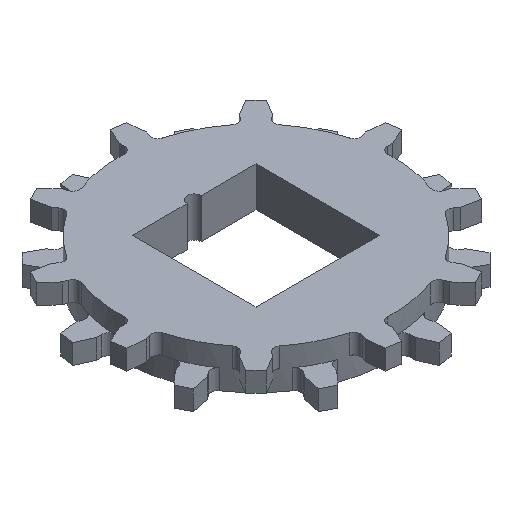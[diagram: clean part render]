
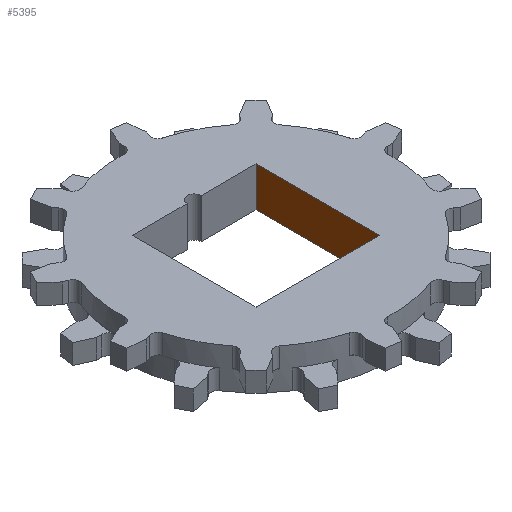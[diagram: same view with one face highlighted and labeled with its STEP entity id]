
A CAD part, isometric view. The second image highlights one B-rep face of the part: STEP entity #5395.
In plain terms, the highlighted planar face has unit normal (-1, 0, 0).
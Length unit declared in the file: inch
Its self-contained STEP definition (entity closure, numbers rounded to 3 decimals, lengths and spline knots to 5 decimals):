
#555=DIRECTION('',(0.,1.,0.));
#556=VECTOR('',#555,2.5);
#557=CARTESIAN_POINT('',(1.25,-1.25,0.4025));
#558=LINE('',#557,#556);
#1435=DIRECTION('',(0.,1.,0.));
#1436=VECTOR('',#1435,2.5);
#1437=CARTESIAN_POINT('',(1.25,-1.25,-0.4025));
#1438=LINE('',#1437,#1436);
#1967=DIRECTION('',(0.,0.,-1.));
#1968=VECTOR('',#1967,0.805);
#1969=CARTESIAN_POINT('',(1.25,1.25,0.4025));
#1970=LINE('',#1969,#1968);
#1975=DIRECTION('',(0.,0.,-1.));
#1976=VECTOR('',#1975,0.805);
#1977=CARTESIAN_POINT('',(1.25,-1.25,0.4025));
#1978=LINE('',#1977,#1976);
#2155=CARTESIAN_POINT('',(1.25,-1.25,0.4025));
#2156=VERTEX_POINT('',#2155);
#2157=CARTESIAN_POINT('',(1.25,1.25,0.4025));
#2158=VERTEX_POINT('',#2157);
#2163=CARTESIAN_POINT('',(1.25,-1.25,-0.4025));
#2164=VERTEX_POINT('',#2163);
#2165=CARTESIAN_POINT('',(1.25,1.25,-0.4025));
#2166=VERTEX_POINT('',#2165);
#5383=CARTESIAN_POINT('',(1.25,-1.25,0.483));
#5384=DIRECTION('',(1.,0.,0.));
#5385=DIRECTION('',(0.,1.,0.));
#5386=AXIS2_PLACEMENT_3D('',#5383,#5384,#5385);
#5387=PLANE('',#5386);
#5388=ORIENTED_EDGE('',*,*,#3339,.F.);
#5390=ORIENTED_EDGE('',*,*,#5389,.T.);
#5391=ORIENTED_EDGE('',*,*,#4445,.T.);
#5392=ORIENTED_EDGE('',*,*,#5364,.F.);
#5393=EDGE_LOOP('',(#5388,#5390,#5391,#5392));
#5394=FACE_OUTER_BOUND('',#5393,.F.);
#5395=ADVANCED_FACE('',(#5394),#5387,.F.);
#3339=EDGE_CURVE('',#2156,#2158,#558,.T.);
#4445=EDGE_CURVE('',#2164,#2166,#1438,.T.);
#5364=EDGE_CURVE('',#2158,#2166,#1970,.T.);
#5389=EDGE_CURVE('',#2156,#2164,#1978,.T.);
